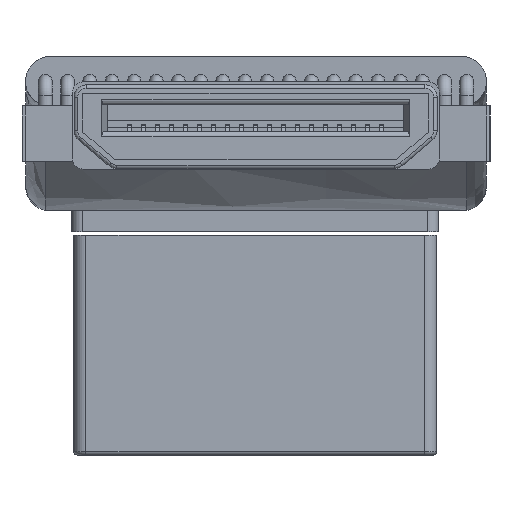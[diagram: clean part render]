
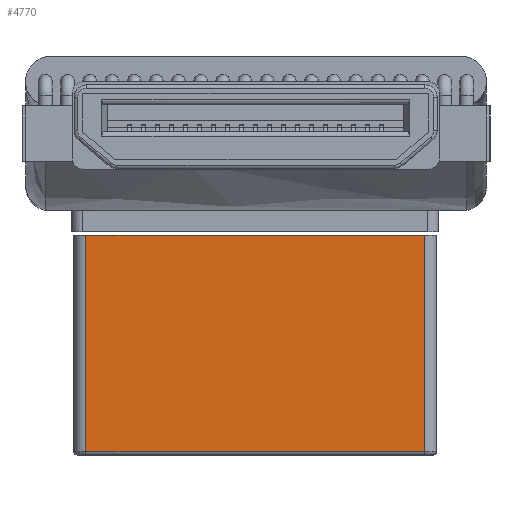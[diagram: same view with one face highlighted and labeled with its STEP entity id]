
A CAD part, front view. The second image highlights one B-rep face of the part: STEP entity #4770.
In plain terms, the highlighted planar face has unit normal (0, -1, 0).
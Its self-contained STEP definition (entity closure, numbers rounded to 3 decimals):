
#3701 = VERTEX_POINT('',#3702);
#3702 = CARTESIAN_POINT('',(-4.85,-5.4,6.3));
#3709 = EDGE_CURVE('',#3710,#3701,#3712,.T.);
#3710 = VERTEX_POINT('',#3711);
#3711 = CARTESIAN_POINT('',(4.85,-5.4,6.3));
#3712 = LINE('',#3713,#3714);
#3713 = CARTESIAN_POINT('',(5.2,-5.4,6.3));
#3714 = VECTOR('',#3715,1.);
#3715 = DIRECTION('',(-1.,0.,0.));
#4770 = ADVANCED_FACE('',(#4771),#4796,.F.);
#4771 = FACE_BOUND('',#4772,.T.);
#4772 = EDGE_LOOP('',(#4773,#4781,#4789,#4795));
#4773 = ORIENTED_EDGE('',*,*,#4774,.T.);
#4774 = EDGE_CURVE('',#3701,#4775,#4777,.T.);
#4775 = VERTEX_POINT('',#4776);
#4776 = CARTESIAN_POINT('',(-4.85,-5.4,0.1));
#4777 = LINE('',#4778,#4779);
#4778 = CARTESIAN_POINT('',(-4.85,-5.4,0.));
#4779 = VECTOR('',#4780,1.);
#4780 = DIRECTION('',(0.,0.,-1.));
#4781 = ORIENTED_EDGE('',*,*,#4782,.T.);
#4782 = EDGE_CURVE('',#4775,#4783,#4785,.T.);
#4783 = VERTEX_POINT('',#4784);
#4784 = CARTESIAN_POINT('',(4.85,-5.4,0.1));
#4785 = LINE('',#4786,#4787);
#4786 = CARTESIAN_POINT('',(4.85,-5.4,0.1));
#4787 = VECTOR('',#4788,1.);
#4788 = DIRECTION('',(1.,0.,0.));
#4789 = ORIENTED_EDGE('',*,*,#4790,.T.);
#4790 = EDGE_CURVE('',#4783,#3710,#4791,.T.);
#4791 = LINE('',#4792,#4793);
#4792 = CARTESIAN_POINT('',(4.85,-5.4,0.));
#4793 = VECTOR('',#4794,1.);
#4794 = DIRECTION('',(0.,0.,1.));
#4795 = ORIENTED_EDGE('',*,*,#3709,.T.);
#4796 = PLANE('',#4797);
#4797 = AXIS2_PLACEMENT_3D('',#4798,#4799,#4800);
#4798 = CARTESIAN_POINT('',(5.2,-5.4,0.));
#4799 = DIRECTION('',(0.,1.,0.));
#4800 = DIRECTION('',(0.,0.,1.));
